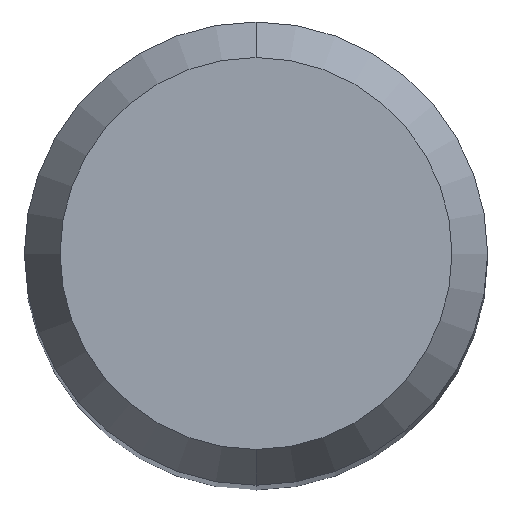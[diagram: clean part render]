
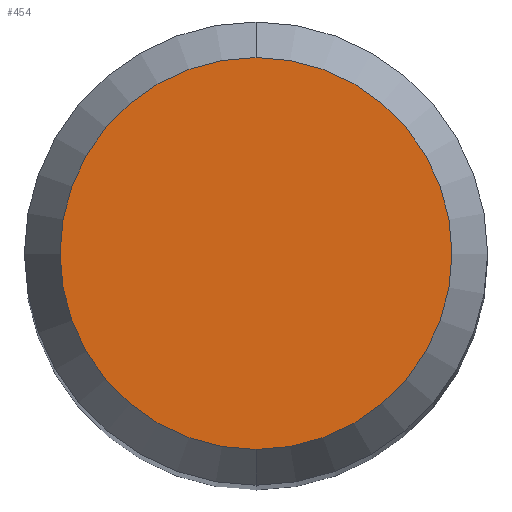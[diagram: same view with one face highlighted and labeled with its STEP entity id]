
A CAD part, top view. The second image highlights one B-rep face of the part: STEP entity #454.
In plain terms, the highlighted planar face has unit normal (0, 0, 1).
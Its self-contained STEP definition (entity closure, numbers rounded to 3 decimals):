
#272=VERTEX_POINT('',#691);
#342=EDGE_CURVE('',#272,#516,#765,.T.);
#350=EDGE_CURVE('',#516,#272,#773,.T.);
#454=ADVANCED_FACE('',(#893),#894,.T.);
#516=VERTEX_POINT('',#962);
#691=CARTESIAN_POINT('',(0.0,2.538,0.0));
#765=CIRCLE('',#1303,2.538);
#773=CIRCLE('',#1312,2.538);
#893=FACE_OUTER_BOUND('',#1568,.T.);
#894=PLANE('',#1569);
#962=CARTESIAN_POINT('',(0.,-2.538,0.0));
#1303=AXIS2_PLACEMENT_3D('',#2014,#2015,#2016);
#1312=AXIS2_PLACEMENT_3D('',#2017,#2018,#2019);
#1568=EDGE_LOOP('',(#2176,#2177));
#1569=AXIS2_PLACEMENT_3D('',#2178,#2179,#2180);
#2014=CARTESIAN_POINT('',(0.0,0.0,0.0));
#2015=DIRECTION('',(0.0,0.0,-1.0));
#2016=DIRECTION('',(0.0,1.0,0.0));
#2017=CARTESIAN_POINT('',(0.0,0.0,0.0));
#2018=DIRECTION('',(0.0,0.0,-1.0));
#2019=DIRECTION('',(0.0,1.0,0.0));
#2176=ORIENTED_EDGE('',*,*,#342,.F.);
#2177=ORIENTED_EDGE('',*,*,#350,.F.);
#2178=CARTESIAN_POINT('',(0.0,1.269,0.0));
#2179=DIRECTION('',(-0.0,0.0,1.0));
#2180=DIRECTION('',(0.0,-1.0,0.0));
